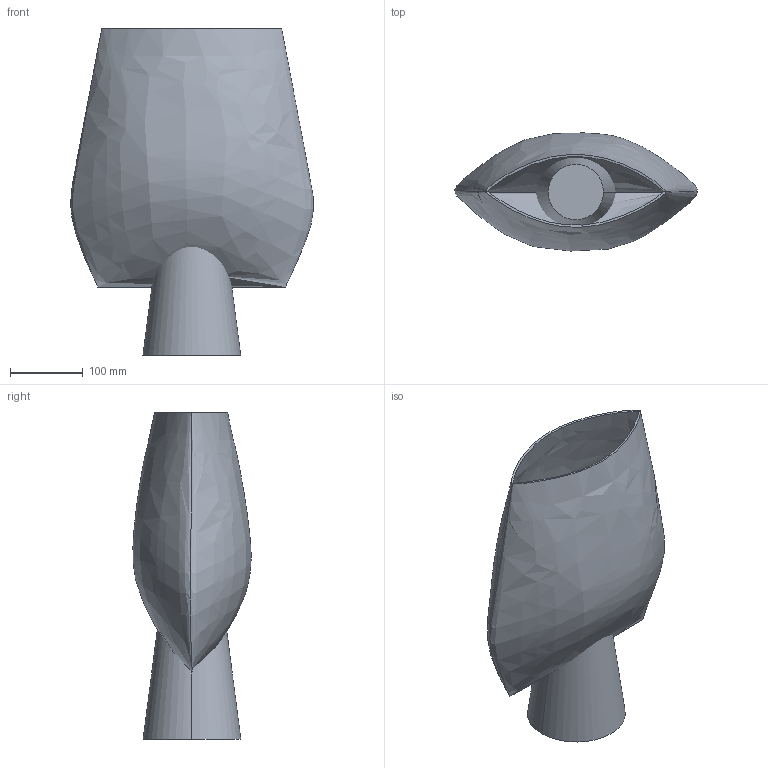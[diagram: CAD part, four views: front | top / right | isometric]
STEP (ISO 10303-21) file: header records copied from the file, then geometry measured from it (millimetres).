
FILE_DESCRIPTION(/* description */ (''),/* implementation_level */ '2;1');
FILE_NAME(/* name */ 'Sphere Vase Square Big',/* time_stamp */ '2020-03-03T11:43:17+01:00',/* author */ (''),/* organization */ (''),/* preprocessor_version */ 'ST-DEVELOPER v15',/* originating_system */ '',/* authorisation */ '');
FILE_SCHEMA (('AUTOMOTIVE_DESIGN'));
Length unit declared in the file: millimetre
Products named in the file (1): Document
Bounding box: 334.13 x 162.62 x 449.59 mm (x, y, z)
Volume: 2009457 mm3; surface area: 361456.6 mm2
Topology: 1 solids, 4 shells, 9 faces, 22 edges, 14 vertices
Faces by surface type: bspline 7, plane 2
Entity records: 4905 total; most frequent: CARTESIAN_POINT 4741, ORIENTED_EDGE 32, EDGE_CURVE 22, B_SPLINE_CURVE_WITH_KNOTS 18, VERTEX_POINT 15, ADVANCED_FACE 9, FACE_OUTER_BOUND 9, EDGE_LOOP 9
